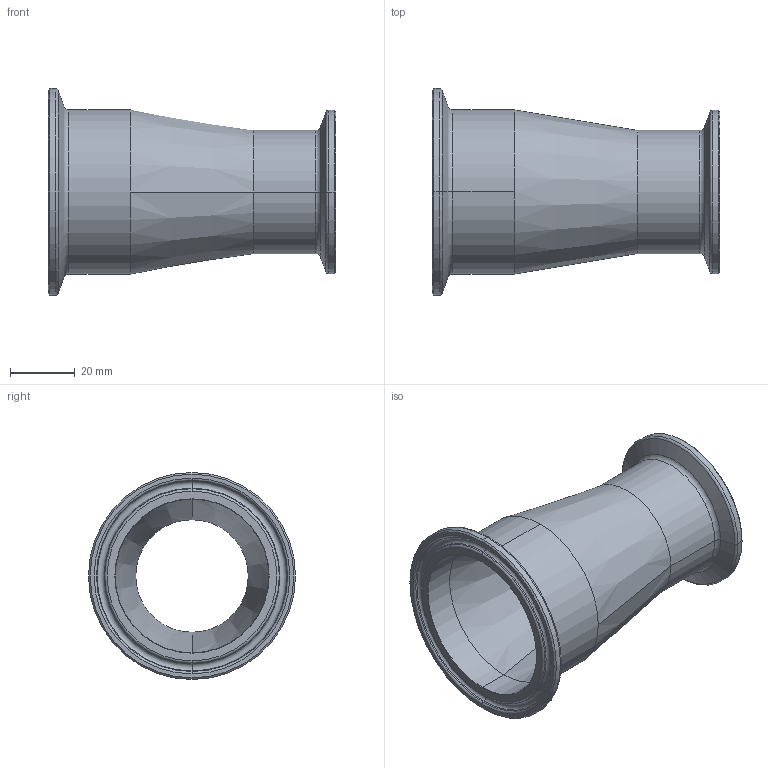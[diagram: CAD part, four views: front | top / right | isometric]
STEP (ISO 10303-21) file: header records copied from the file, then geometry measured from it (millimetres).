
FILE_DESCRIPTION (( 'STEP AP214' ), '1' );
FILE_NAME ('TEG31SCC6I2.0x1.5.STEP', '2016-05-29T14:32:21', ( 'eran' ), ( '' ), 'SwSTEP 2.0', 'SolidWorks 2016', '' );
FILE_SCHEMA (( 'AUTOMOTIVE_DESIGN' ));
Length unit declared in the file: millimetre
Products named in the file (1): TEG31SCC6I2.0x1.5
Bounding box: 88.9 x 64 x 64 mm (x, y, z)
Volume: 43203.2 mm3; surface area: 27738.2 mm2
Topology: 1 solids, 1 shells, 60 faces, 122 edges, 66 vertices
Faces by surface type: cone 24, torus 20, cylinder 12, plane 4
Entity records: 1602 total; most frequent: DIRECTION 330, CARTESIAN_POINT 249, ORIENTED_EDGE 244, AXIS2_PLACEMENT_3D 147, EDGE_CURVE 122, CIRCLE 86, VERTEX_POINT 66, EDGE_LOOP 64
